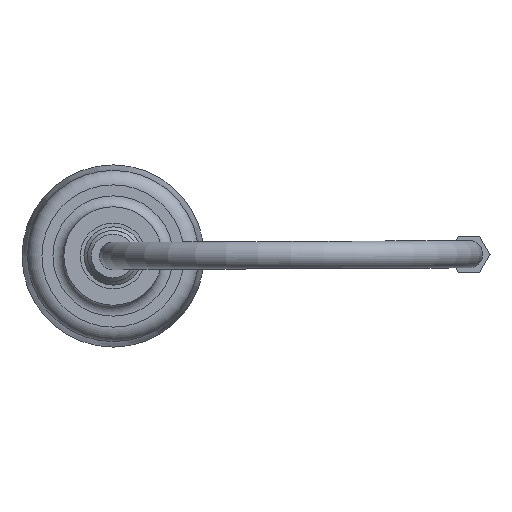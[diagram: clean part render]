
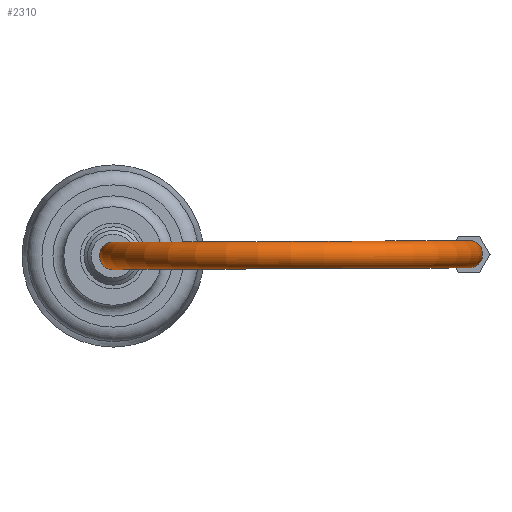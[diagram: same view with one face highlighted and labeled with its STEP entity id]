
A CAD part, front view. The second image highlights one B-rep face of the part: STEP entity #2310.
In plain terms, the highlighted toroidal (fillet/blend) face has major radius 62.015 mm and minor radius 4.763 mm.
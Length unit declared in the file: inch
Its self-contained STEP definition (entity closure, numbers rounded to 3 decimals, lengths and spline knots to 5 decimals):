
#131=TOROIDAL_SURFACE('',#2546,2.44152,0.1875);
#275=FACE_OUTER_BOUND('',#405,.T.);
#405=EDGE_LOOP('',(#1848,#1849,#1850,#1851,#1852,#1853,#1854,#1855));
#828=CIRCLE('',#2543,0.1875);
#829=CIRCLE('',#2544,0.1875);
#830=CIRCLE('',#2545,0.1875);
#831=CIRCLE('',#2547,0.1875);
#832=CIRCLE('',#2548,0.1875);
#833=CIRCLE('',#2549,0.1875);
#834=CIRCLE('',#2550,2.25402);
#1006=VERTEX_POINT('',#3739);
#1007=VERTEX_POINT('',#3740);
#1008=VERTEX_POINT('',#3742);
#1009=VERTEX_POINT('',#3747);
#1010=VERTEX_POINT('',#3748);
#1011=VERTEX_POINT('',#3750);
#1302=EDGE_CURVE('',#1006,#1007,#828,.T.);
#1303=EDGE_CURVE('',#1008,#1006,#829,.T.);
#1305=EDGE_CURVE('',#1007,#1008,#830,.T.);
#1306=EDGE_CURVE('',#1009,#1010,#831,.T.);
#1307=EDGE_CURVE('',#1011,#1009,#832,.T.);
#1308=EDGE_CURVE('',#1010,#1011,#833,.T.);
#1309=EDGE_CURVE('',#1010,#1007,#834,.T.);
#1848=ORIENTED_EDGE('',*,*,#1306,.F.);
#1849=ORIENTED_EDGE('',*,*,#1307,.F.);
#1850=ORIENTED_EDGE('',*,*,#1308,.F.);
#1851=ORIENTED_EDGE('',*,*,#1309,.T.);
#1852=ORIENTED_EDGE('',*,*,#1305,.T.);
#1853=ORIENTED_EDGE('',*,*,#1303,.T.);
#1854=ORIENTED_EDGE('',*,*,#1302,.T.);
#1855=ORIENTED_EDGE('',*,*,#1309,.F.);
#2310=ADVANCED_FACE('',(#275),#131,.T.);
#2543=AXIS2_PLACEMENT_3D('',#3741,#3062,#3063);
#2544=AXIS2_PLACEMENT_3D('',#3743,#3064,#3065);
#2545=AXIS2_PLACEMENT_3D('',#3745,#3067,#3068);
#2546=AXIS2_PLACEMENT_3D('',#3746,#3069,#3070);
#2547=AXIS2_PLACEMENT_3D('',#3749,#3071,#3072);
#2548=AXIS2_PLACEMENT_3D('',#3751,#3073,#3074);
#2549=AXIS2_PLACEMENT_3D('',#3752,#3075,#3076);
#2550=AXIS2_PLACEMENT_3D('',#3753,#3077,#3078);
#3062=DIRECTION('center_axis',(0.,-1.,0.));
#3063=DIRECTION('ref_axis',(0.999,0.,-0.039));
#3064=DIRECTION('center_axis',(0.,-1.,0.));
#3065=DIRECTION('ref_axis',(0.999,0.,-0.039));
#3067=DIRECTION('center_axis',(0.,-1.,0.));
#3068=DIRECTION('ref_axis',(0.999,0.,-0.039));
#3069=DIRECTION('center_axis',(-0.005,0.,
1.));
#3070=DIRECTION('ref_axis',(1.,0.,0.005));
#3071=DIRECTION('center_axis',(0.,1.,0.));
#3072=DIRECTION('ref_axis',(-0.999,0.,-0.049));
#3073=DIRECTION('center_axis',(0.,1.,0.));
#3074=DIRECTION('ref_axis',(-0.999,0.,-0.049));
#3075=DIRECTION('center_axis',(0.,1.,0.));
#3076=DIRECTION('ref_axis',(-0.999,0.,-0.049));
#3077=DIRECTION('center_axis',(0.005,0.,
-1.));
#3078=DIRECTION('ref_axis',(1.,0.,0.005));
#3739=CARTESIAN_POINT('',(0.13095,-6.51344,0.18059));
#3740=CARTESIAN_POINT('',(0.13109,-6.51344,0.18878));
#3741=CARTESIAN_POINT('Origin',(-0.0564,-6.51344,0.18785));
#3742=CARTESIAN_POINT('',(-0.24376,-6.51344,0.19512));
#3743=CARTESIAN_POINT('Origin',(-0.0564,-6.51344,0.18785));
#3745=CARTESIAN_POINT('Origin',(-0.0564,-6.51344,0.18785));
#3746=CARTESIAN_POINT('Origin',(2.38509,-6.51346,0.19986));
#3747=CARTESIAN_POINT('',(4.6393,-6.51347,0.20275));
#3748=CARTESIAN_POINT('',(4.63908,-6.51347,0.21094));
#3749=CARTESIAN_POINT('Origin',(4.82658,-6.51347,0.21186));
#3750=CARTESIAN_POINT('',(5.01386,-6.51347,0.22097));
#3751=CARTESIAN_POINT('Origin',(4.82658,-6.51347,0.21186));
#3752=CARTESIAN_POINT('Origin',(4.82658,-6.51347,0.21186));
#3753=CARTESIAN_POINT('Origin',(2.38509,-6.51346,0.19986));
